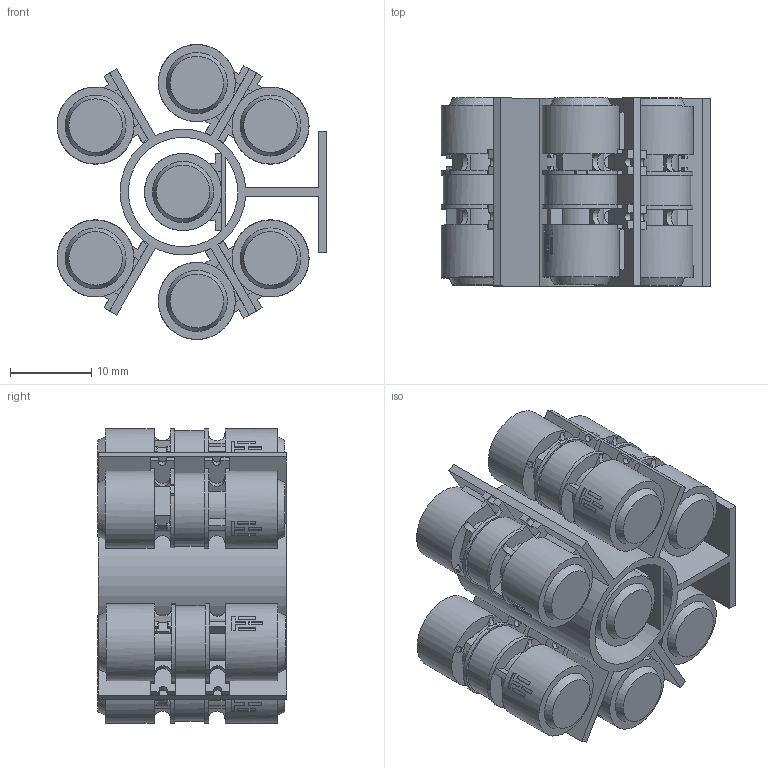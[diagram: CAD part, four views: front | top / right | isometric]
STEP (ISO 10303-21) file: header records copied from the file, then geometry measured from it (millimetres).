
FILE_DESCRIPTION(/* description */ (''),/* implementation_level */ '2;1');
FILE_NAME(/* name */ '7x drake symetrical.step',/* time_stamp */ '2023-06-07T17:02:28-04:00',/* author */ (''),/* organization */ (''),/* preprocessor_version */ 'ST-DEVELOPER v19.2',/* originating_system */ 'Autodesk Translation Framework v12.6.0.85',/* authorisation */ '');
FILE_SCHEMA (('AUTOMOTIVE_DESIGN { 1 0 10303 214 3 1 1 }'));
Length unit declared in the file: millimetre
Products named in the file (9): 7x drake hexagon; TacHammer - Drake Volume; TacHammer - Drake Volume_1; TacHammer - Drake Volume_2; TacHammer - Drake Volume_3; TacHammer - Drake Volume_4; TacHammer - Drake Volume_5; TacHammer - Drake Volume_6; Volume_Env
Assembly tree (14 placements, depth 3):
  7x drake hexagon
    TacHammer - Drake Volume
      Volume_Env
    TacHammer - Drake Volume_1
      Volume_Env
    TacHammer - Drake Volume_2
      Volume_Env
    TacHammer - Drake Volume_3
      Volume_Env
    TacHammer - Drake Volume_4
      Volume_Env
    TacHammer - Drake Volume_5
      Volume_Env
    TacHammer - Drake Volume_6
      Volume_Env
Bounding box: 33.29 x 23.25 x 36.39 mm (x, y, z)
Volume: 12540.3 mm3; surface area: 13167 mm2
Topology: 8 solids, 8 shells, 1262 faces, 3465 edges, 2240 vertices
Faces by surface type: plane 884, cylinder 350, cone 14, torus 14
Full cylindrical faces by diameter (mm): 9 x7, 9.5 x14
Entity records: 6825 total; most frequent: CARTESIAN_POINT 1183, DIRECTION 1169, ORIENTED_EDGE 1134, EDGE_CURVE 567, LINE 421, VECTOR 421, AXIS2_PLACEMENT_3D 374, VERTEX_POINT 368
